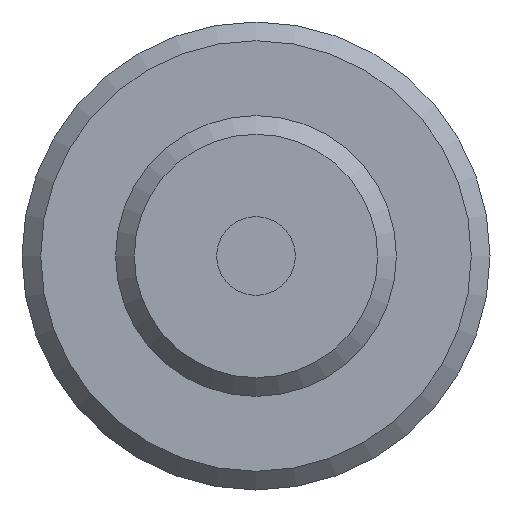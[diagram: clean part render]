
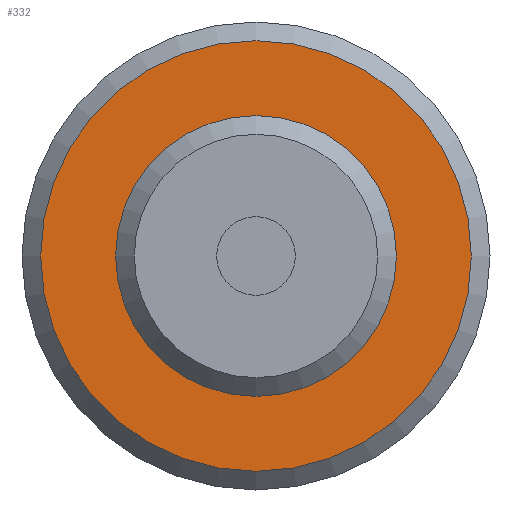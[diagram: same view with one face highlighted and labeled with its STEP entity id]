
A CAD part, front view. The second image highlights one B-rep face of the part: STEP entity #332.
In plain terms, the highlighted planar face has unit normal (0, -1, 0).
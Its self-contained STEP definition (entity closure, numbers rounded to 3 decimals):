
#27=FACE_BOUND('',#97,.T.);
#46=PLANE('',#390);
#66=FACE_OUTER_BOUND('',#96,.T.);
#96=EDGE_LOOP('',(#268));
#97=EDGE_LOOP('',(#269));
#158=CIRCLE('',#389,7.5);
#159=CIRCLE('',#391,11.5);
#183=VERTEX_POINT('',#583);
#184=VERTEX_POINT('',#587);
#213=EDGE_CURVE('',#183,#183,#158,.T.);
#215=EDGE_CURVE('',#184,#184,#159,.T.);
#268=ORIENTED_EDGE('',*,*,#215,.F.);
#269=ORIENTED_EDGE('',*,*,#213,.T.);
#332=ADVANCED_FACE('',(#66,#27),#46,.T.);
#389=AXIS2_PLACEMENT_3D('',#584,#468,#469);
#390=AXIS2_PLACEMENT_3D('',#586,#471,#472);
#391=AXIS2_PLACEMENT_3D('',#588,#473,#474);
#468=DIRECTION('center_axis',(0.,1.,0.));
#469=DIRECTION('ref_axis',(1.,0.,0.));
#471=DIRECTION('center_axis',(0.,-1.,0.));
#472=DIRECTION('ref_axis',(0.,0.,-1.));
#473=DIRECTION('center_axis',(0.,1.,0.));
#474=DIRECTION('ref_axis',(1.,0.,0.));
#583=CARTESIAN_POINT('',(0.,20.,-7.5));
#584=CARTESIAN_POINT('Origin',(0.,20.,0.));
#586=CARTESIAN_POINT('Origin',(0.,20.,11.5));
#587=CARTESIAN_POINT('',(0.,20.,-11.5));
#588=CARTESIAN_POINT('Origin',(0.,20.,0.));
